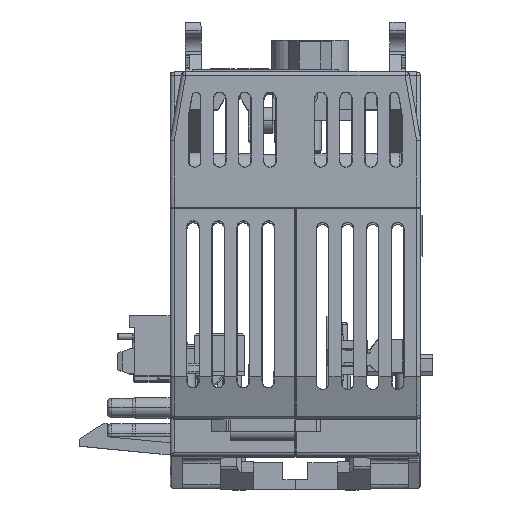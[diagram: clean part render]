
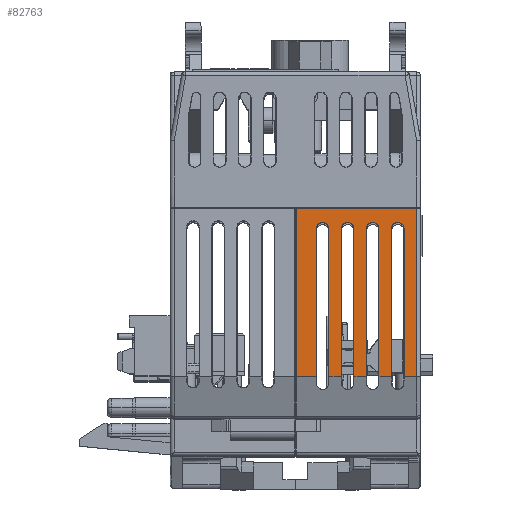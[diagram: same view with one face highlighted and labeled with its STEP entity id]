
A CAD part, top view. The second image highlights one B-rep face of the part: STEP entity #82763.
In plain terms, the highlighted planar face has unit normal (0, 0, 1).
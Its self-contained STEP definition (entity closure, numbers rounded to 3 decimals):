
#30862=DIRECTION('',(-1.,0.,0.));
#30863=VECTOR('',#30862,14.4);
#30864=CARTESIAN_POINT('',(42.2,26.7,56.5));
#30865=LINE('',#30864,#30863);
#30869=DIRECTION('',(0.,-1.,0.));
#30870=VECTOR('',#30869,20.17);
#30871=CARTESIAN_POINT('',(42.2,26.7,56.5));
#30872=LINE('',#30871,#30870);
#30876=DIRECTION('',(1.,0.,0.));
#30877=VECTOR('',#30876,1.5);
#30878=CARTESIAN_POINT('',(40.7,6.53,56.5));
#30879=LINE('',#30878,#30877);
#30883=DIRECTION('',(0.,1.,0.));
#30884=VECTOR('',#30883,17.72);
#30885=CARTESIAN_POINT('',(40.7,6.53,56.5));
#30886=LINE('',#30885,#30884);
#30890=CARTESIAN_POINT('',(39.95,24.25,56.5));
#30891=DIRECTION('',(0.,0.,1.));
#30892=DIRECTION('',(1.,0.,0.));
#30893=AXIS2_PLACEMENT_3D('',#30890,#30891,#30892);
#30898=DIRECTION('',(0.,1.,0.));
#30899=VECTOR('',#30898,17.72);
#30900=CARTESIAN_POINT('',(39.2,6.53,56.5));
#30901=LINE('',#30900,#30899);
#30905=DIRECTION('',(1.,0.,0.));
#30906=VECTOR('',#30905,1.5);
#30907=CARTESIAN_POINT('',(37.7,6.53,56.5));
#30908=LINE('',#30907,#30906);
#30912=DIRECTION('',(0.,1.,0.));
#30913=VECTOR('',#30912,17.72);
#30914=CARTESIAN_POINT('',(37.7,6.53,56.5));
#30915=LINE('',#30914,#30913);
#30919=CARTESIAN_POINT('',(36.95,24.25,56.5));
#30920=DIRECTION('',(0.,0.,1.));
#30921=DIRECTION('',(1.,0.,0.));
#30922=AXIS2_PLACEMENT_3D('',#30919,#30920,#30921);
#30927=DIRECTION('',(0.,1.,0.));
#30928=VECTOR('',#30927,17.72);
#30929=CARTESIAN_POINT('',(36.2,6.53,56.5));
#30930=LINE('',#30929,#30928);
#30934=DIRECTION('',(1.,0.,0.));
#30935=VECTOR('',#30934,1.5);
#30936=CARTESIAN_POINT('',(34.7,6.53,56.5));
#30937=LINE('',#30936,#30935);
#30941=DIRECTION('',(0.,1.,0.));
#30942=VECTOR('',#30941,17.72);
#30943=CARTESIAN_POINT('',(34.7,6.53,56.5));
#30944=LINE('',#30943,#30942);
#30948=CARTESIAN_POINT('',(33.95,24.25,56.5));
#30949=DIRECTION('',(0.,0.,1.));
#30950=DIRECTION('',(1.,0.,0.));
#30951=AXIS2_PLACEMENT_3D('',#30948,#30949,#30950);
#30956=DIRECTION('',(0.,1.,0.));
#30957=VECTOR('',#30956,17.72);
#30958=CARTESIAN_POINT('',(33.2,6.53,56.5));
#30959=LINE('',#30958,#30957);
#30963=DIRECTION('',(1.,0.,0.));
#30964=VECTOR('',#30963,1.5);
#30965=CARTESIAN_POINT('',(31.7,6.53,56.5));
#30966=LINE('',#30965,#30964);
#30970=DIRECTION('',(0.,1.,0.));
#30971=VECTOR('',#30970,17.72);
#30972=CARTESIAN_POINT('',(31.7,6.53,56.5));
#30973=LINE('',#30972,#30971);
#30977=CARTESIAN_POINT('',(30.95,24.25,56.5));
#30978=DIRECTION('',(0.,0.,1.));
#30979=DIRECTION('',(1.,0.,0.));
#30980=AXIS2_PLACEMENT_3D('',#30977,#30978,#30979);
#30985=DIRECTION('',(0.,1.,0.));
#30986=VECTOR('',#30985,17.72);
#30987=CARTESIAN_POINT('',(30.2,6.53,56.5));
#30988=LINE('',#30987,#30986);
#30992=DIRECTION('',(1.,0.,0.));
#30993=VECTOR('',#30992,2.4);
#30994=CARTESIAN_POINT('',(27.8,6.53,56.5));
#30995=LINE('',#30994,#30993);
#30999=DIRECTION('',(0.,-1.,0.));
#31000=VECTOR('',#30999,20.17);
#31001=CARTESIAN_POINT('',(27.8,26.7,56.5));
#31002=LINE('',#31001,#31000);
#52817=CARTESIAN_POINT('',(31.7,6.53,56.5));
#52818=CARTESIAN_POINT('',(33.2,6.53,56.5));
#52819=VERTEX_POINT('',#52817);
#52820=VERTEX_POINT('',#52818);
#52821=CARTESIAN_POINT('',(34.7,6.53,56.5));
#52822=CARTESIAN_POINT('',(36.2,6.53,56.5));
#52823=VERTEX_POINT('',#52821);
#52824=VERTEX_POINT('',#52822);
#52825=CARTESIAN_POINT('',(37.7,6.53,56.5));
#52826=CARTESIAN_POINT('',(39.2,6.53,56.5));
#52827=VERTEX_POINT('',#52825);
#52828=VERTEX_POINT('',#52826);
#52829=CARTESIAN_POINT('',(31.7,24.25,56.5));
#52830=VERTEX_POINT('',#52829);
#52831=CARTESIAN_POINT('',(30.2,6.53,56.5));
#52832=CARTESIAN_POINT('',(30.2,24.25,56.5));
#52833=VERTEX_POINT('',#52831);
#52834=VERTEX_POINT('',#52832);
#52835=CARTESIAN_POINT('',(34.7,24.25,56.5));
#52836=VERTEX_POINT('',#52835);
#52837=CARTESIAN_POINT('',(33.2,24.25,56.5));
#52838=VERTEX_POINT('',#52837);
#52839=CARTESIAN_POINT('',(37.7,24.25,56.5));
#52840=VERTEX_POINT('',#52839);
#52841=CARTESIAN_POINT('',(36.2,24.25,56.5));
#52842=VERTEX_POINT('',#52841);
#52843=CARTESIAN_POINT('',(40.7,6.53,56.5));
#52844=CARTESIAN_POINT('',(40.7,24.25,56.5));
#52845=VERTEX_POINT('',#52843);
#52846=VERTEX_POINT('',#52844);
#52847=CARTESIAN_POINT('',(39.2,24.25,56.5));
#52848=VERTEX_POINT('',#52847);
#53558=CARTESIAN_POINT('',(42.2,6.53,56.5));
#53559=VERTEX_POINT('',#53558);
#53683=CARTESIAN_POINT('',(42.2,26.7,56.5));
#53684=CARTESIAN_POINT('',(27.8,26.7,56.5));
#53685=VERTEX_POINT('',#53683);
#53686=VERTEX_POINT('',#53684);
#53693=CARTESIAN_POINT('',(27.8,6.53,56.5));
#53694=VERTEX_POINT('',#53693);
#82723=CARTESIAN_POINT('',(27.7,33.5,56.5));
#82724=DIRECTION('',(0.,0.,1.));
#82725=DIRECTION('',(0.,-1.,0.));
#82726=AXIS2_PLACEMENT_3D('',#82723,#82724,#82725);
#82727=PLANE('',#82726);
#82728=ORIENTED_EDGE('',*,*,#78692,.F.);
#82730=ORIENTED_EDGE('',*,*,#82729,.T.);
#82731=ORIENTED_EDGE('',*,*,#82708,.F.);
#82733=ORIENTED_EDGE('',*,*,#82732,.T.);
#82735=ORIENTED_EDGE('',*,*,#82734,.T.);
#82737=ORIENTED_EDGE('',*,*,#82736,.F.);
#82738=ORIENTED_EDGE('',*,*,#82700,.F.);
#82740=ORIENTED_EDGE('',*,*,#82739,.T.);
#82742=ORIENTED_EDGE('',*,*,#82741,.T.);
#82744=ORIENTED_EDGE('',*,*,#82743,.F.);
#82745=ORIENTED_EDGE('',*,*,#82692,.F.);
#82747=ORIENTED_EDGE('',*,*,#82746,.T.);
#82749=ORIENTED_EDGE('',*,*,#82748,.T.);
#82751=ORIENTED_EDGE('',*,*,#82750,.F.);
#82752=ORIENTED_EDGE('',*,*,#82684,.F.);
#82754=ORIENTED_EDGE('',*,*,#82753,.T.);
#82756=ORIENTED_EDGE('',*,*,#82755,.T.);
#82758=ORIENTED_EDGE('',*,*,#82757,.F.);
#82759=ORIENTED_EDGE('',*,*,#82676,.F.);
#82760=ORIENTED_EDGE('',*,*,#78671,.F.);
#82761=EDGE_LOOP('',(#82728,#82730,#82731,#82733,#82735,#82737,#82738,#82740,
#82742,#82744,#82745,#82747,#82749,#82751,#82752,#82754,#82756,#82758,#82759,
#82760));
#82762=FACE_OUTER_BOUND('',#82761,.F.);
#30894=CIRCLE('',#30893,0.75);
#30923=CIRCLE('',#30922,0.75);
#30952=CIRCLE('',#30951,0.75);
#30981=CIRCLE('',#30980,0.75);
#78671=EDGE_CURVE('',#53686,#53694,#31002,.T.);
#78692=EDGE_CURVE('',#53685,#53686,#30865,.T.);
#82676=EDGE_CURVE('',#53694,#52833,#30995,.T.);
#82684=EDGE_CURVE('',#52819,#52820,#30966,.T.);
#82692=EDGE_CURVE('',#52823,#52824,#30937,.T.);
#82700=EDGE_CURVE('',#52827,#52828,#30908,.T.);
#82708=EDGE_CURVE('',#52845,#53559,#30879,.T.);
#82729=EDGE_CURVE('',#53685,#53559,#30872,.T.);
#82732=EDGE_CURVE('',#52845,#52846,#30886,.T.);
#82734=EDGE_CURVE('',#52846,#52848,#30894,.T.);
#82736=EDGE_CURVE('',#52828,#52848,#30901,.T.);
#82739=EDGE_CURVE('',#52827,#52840,#30915,.T.);
#82741=EDGE_CURVE('',#52840,#52842,#30923,.T.);
#82743=EDGE_CURVE('',#52824,#52842,#30930,.T.);
#82746=EDGE_CURVE('',#52823,#52836,#30944,.T.);
#82748=EDGE_CURVE('',#52836,#52838,#30952,.T.);
#82750=EDGE_CURVE('',#52820,#52838,#30959,.T.);
#82753=EDGE_CURVE('',#52819,#52830,#30973,.T.);
#82755=EDGE_CURVE('',#52830,#52834,#30981,.T.);
#82757=EDGE_CURVE('',#52833,#52834,#30988,.T.);
#82763=ADVANCED_FACE('',(#82762),#82727,.T.);
